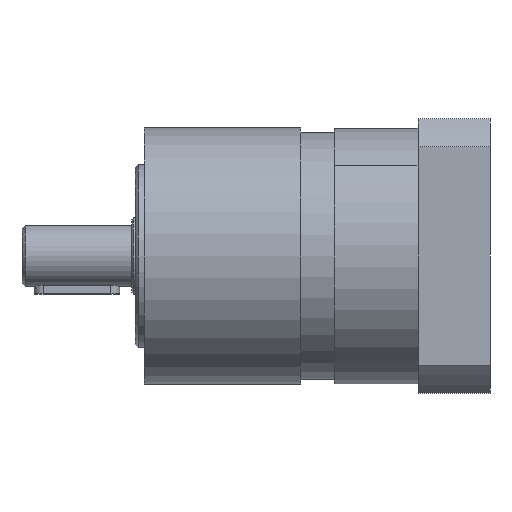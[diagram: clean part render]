
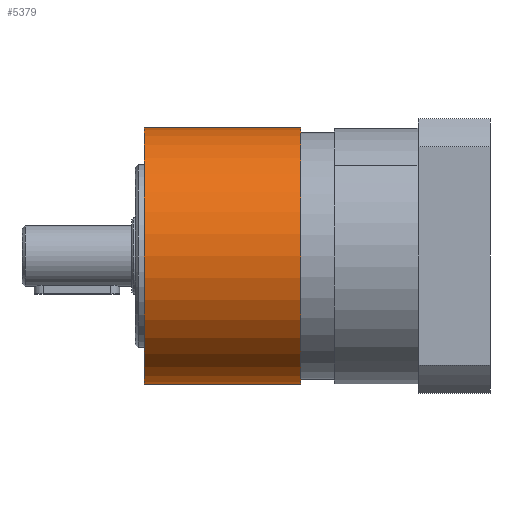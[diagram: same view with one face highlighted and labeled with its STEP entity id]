
A CAD part, left-side view. The second image highlights one B-rep face of the part: STEP entity #5379.
In plain terms, the highlighted cylindrical face has radius 42 mm (diameter 84 mm), a partial arc.
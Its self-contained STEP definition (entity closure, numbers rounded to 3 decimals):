
#116 = CIRCLE ( 'NONE', #4929, 42. ) ;
#241 = ORIENTED_EDGE ( 'NONE', *, *, #967, .T. ) ;
#282 = CARTESIAN_POINT ( 'NONE',  ( 0., 116.3, 0. ) ) ;
#452 = CARTESIAN_POINT ( 'NONE',  ( 0., 113.3, 42. ) ) ;
#553 = EDGE_CURVE ( 'NONE', #1337, #1201, #3019, .T. ) ;
#801 = LINE ( 'NONE', #4180, #2171 ) ;
#967 = EDGE_CURVE ( 'NONE', #1337, #4495, #801, .T. ) ;
#1199 = DIRECTION ( 'NONE',  ( 0., -1., 0. ) ) ;
#1201 = VERTEX_POINT ( 'NONE', #452 ) ;
#1246 = CARTESIAN_POINT ( 'NONE',  ( 0., 113.3, -42. ) ) ;
#1337 = VERTEX_POINT ( 'NONE', #1246 ) ;
#1584 = EDGE_LOOP ( 'NONE', ( #2350, #241, #5348, #3528 ) ) ;
#1688 = VERTEX_POINT ( 'NONE', #1793 ) ;
#1793 = CARTESIAN_POINT ( 'NONE',  ( 0., 62.1, 42. ) ) ;
#2147 = AXIS2_PLACEMENT_3D ( 'NONE', #282, #6325, #5087 ) ;
#2171 = VECTOR ( 'NONE', #1199, 1000. ) ;
#2330 = DIRECTION ( 'NONE',  ( 0., 0., -1. ) ) ;
#2350 = ORIENTED_EDGE ( 'NONE', *, *, #553, .F. ) ;
#2597 = CARTESIAN_POINT ( 'NONE',  ( 0., 113.3, 0. ) ) ;
#3019 = CIRCLE ( 'NONE', #6499, 42. ) ;
#3215 = EDGE_CURVE ( 'NONE', #4495, #1688, #116, .T. ) ;
#3495 = DIRECTION ( 'NONE',  ( 0., 1., 0. ) ) ;
#3528 = ORIENTED_EDGE ( 'NONE', *, *, #4461, .F. ) ;
#3566 = CARTESIAN_POINT ( 'NONE',  ( 0., 62.1, 0. ) ) ;
#3956 = LINE ( 'NONE', #4754, #6661 ) ;
#4180 = CARTESIAN_POINT ( 'NONE',  ( 0., 116.3, -42. ) ) ;
#4193 = DIRECTION ( 'NONE',  ( 0., -1., 0. ) ) ;
#4461 = EDGE_CURVE ( 'NONE', #1201, #1688, #3956, .T. ) ;
#4495 = VERTEX_POINT ( 'NONE', #7051 ) ;
#4754 = CARTESIAN_POINT ( 'NONE',  ( 0., 116.3, 42. ) ) ;
#4929 = AXIS2_PLACEMENT_3D ( 'NONE', #3566, #3495, #2330 ) ;
#5087 = DIRECTION ( 'NONE',  ( 0., 0., 1. ) ) ;
#5348 = ORIENTED_EDGE ( 'NONE', *, *, #3215, .T. ) ;
#5379 = ADVANCED_FACE ( 'NONE', ( #6854 ), #6762, .T. ) ;
#5477 = DIRECTION ( 'NONE',  ( 0., 1., 0. ) ) ;
#6111 = DIRECTION ( 'NONE',  ( 0., 0., -1. ) ) ;
#6325 = DIRECTION ( 'NONE',  ( 0., -1., 0. ) ) ;
#6499 = AXIS2_PLACEMENT_3D ( 'NONE', #2597, #5477, #6111 ) ;
#6661 = VECTOR ( 'NONE', #4193, 1000. ) ;
#6762 = CYLINDRICAL_SURFACE ( 'NONE', #2147, 42. ) ;
#6854 = FACE_OUTER_BOUND ( 'NONE', #1584, .T. ) ;
#7051 = CARTESIAN_POINT ( 'NONE',  ( 0., 62.1, -42. ) ) ;
